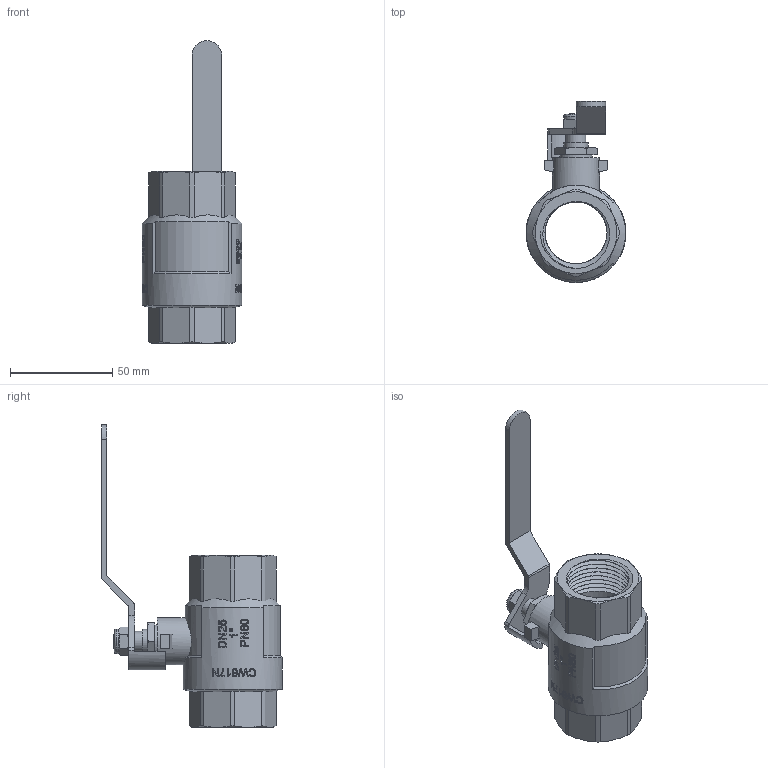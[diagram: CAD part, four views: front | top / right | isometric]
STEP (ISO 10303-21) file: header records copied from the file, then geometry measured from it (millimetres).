
FILE_DESCRIPTION(/* description */ (''),/* implementation_level */ '2;1');
FILE_NAME(/* name */ 'F:\Артём\00000\Работа удаленка\0\B\VT.314.N.06.stp',/* time_stamp */ '2021-02-03T15:42:52+03:00',/* author */ ('almis'),/* organization */ (''),/* preprocessor_version */ 'ST-DEVELOPER v18',/* originating_system */ 'Autodesk Inventor 2020',/* authorisation */ '');
FILE_SCHEMA (('AUTOMOTIVE_DESIGN { 1 0 10303 214 3 1 1 }'));
Length unit declared in the file: millimetre
Products named in the file (1): VT.314_ВВ_1
Bounding box: 48.7 x 88.23 x 147.85 mm (x, y, z)
Volume: 95840.8 mm3; surface area: 36084 mm2
Topology: 1 solids, 1 shells, 583 faces, 1539 edges, 1015 vertices
Faces by surface type: bspline 231, plane 196, cylinder 130, cone 25, torus 1
Full cylindrical faces by diameter (mm): 9.728 x1, 11.728 x1, 11.955 x1, 16.052 x1, 23 x1, 30.3 x18, 34.9 x24, 48.5 x1
Entity records: 27446 total; most frequent: CARTESIAN_POINT 14697, ORIENTED_EDGE 3078, DIRECTION 1879, EDGE_CURVE 1539, VERTEX_POINT 1015, LINE 679, VECTOR 679, EDGE_LOOP 642
